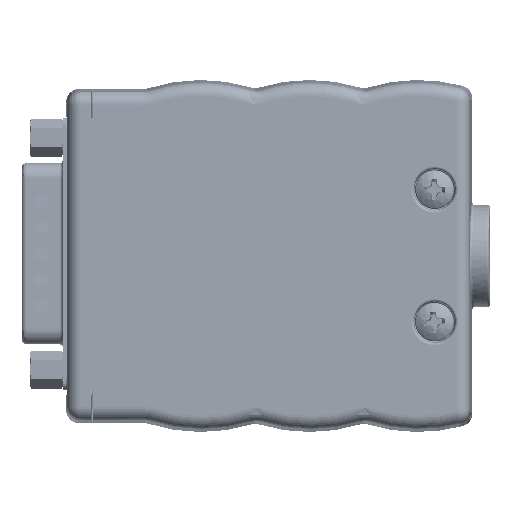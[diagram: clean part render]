
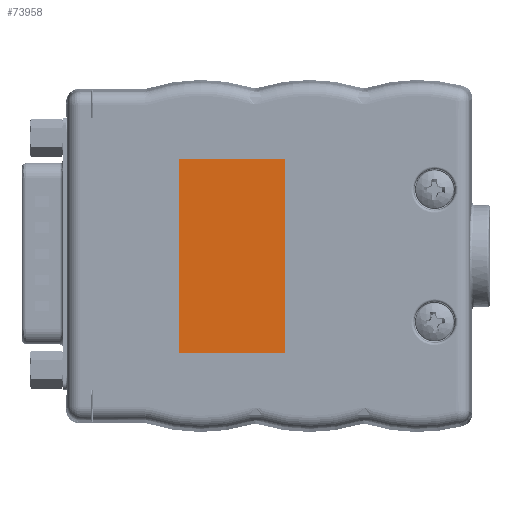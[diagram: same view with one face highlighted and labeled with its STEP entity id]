
A CAD part, top view. The second image highlights one B-rep face of the part: STEP entity #73958.
In plain terms, the highlighted planar face has unit normal (0, 0, 1).
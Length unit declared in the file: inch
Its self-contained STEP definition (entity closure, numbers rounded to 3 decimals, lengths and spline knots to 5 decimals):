
#3266 = EDGE_CURVE ( 'NONE', #110552, #4676, #355680, .T. ) ;
#4676 = VERTEX_POINT ( 'NONE', #185975 ) ;
#19014 = CARTESIAN_POINT ( 'NONE',  ( 23.86426, 5.65173, 0.6661 ) ) ;
#19164 = FACE_OUTER_BOUND ( 'NONE', #419641, .T. ) ;
#32429 = VERTEX_POINT ( 'NONE', #19014 ) ;
#32653 = ORIENTED_EDGE ( 'NONE', *, *, #392821, .T. ) ;
#72960 = LINE ( 'NONE', #335281, #494580 ) ;
#72994 = ORIENTED_EDGE ( 'NONE', *, *, #401751, .T. ) ;
#73958 = ADVANCED_FACE ( 'NONE', ( #19164 ), #321324, .T. ) ;
#78219 = DIRECTION ( 'NONE',  ( 0., 0., 1. ) ) ;
#86983 = DIRECTION ( 'NONE',  ( 0., -1., 0. ) ) ;
#110552 = VERTEX_POINT ( 'NONE', #316390 ) ;
#137083 = LINE ( 'NONE', #224378, #444120 ) ;
#154858 = CARTESIAN_POINT ( 'NONE',  ( 0., 0., 0.6661 ) ) ;
#177552 = ORIENTED_EDGE ( 'NONE', *, *, #3266, .T. ) ;
#179579 = DIRECTION ( 'NONE',  ( -1., 0., 0. ) ) ;
#180875 = ORIENTED_EDGE ( 'NONE', *, *, #502698, .T. ) ;
#185975 = CARTESIAN_POINT ( 'NONE',  ( 24.96374, 5.65173, 0.6661 ) ) ;
#224378 = CARTESIAN_POINT ( 'NONE',  ( 0., 5.65173, 0.6661 ) ) ;
#237599 = CARTESIAN_POINT ( 'NONE',  ( 24.96374, 0., 0.6661 ) ) ;
#286597 = CARTESIAN_POINT ( 'NONE',  ( 23.86426, 5.05225, 0.6661 ) ) ;
#287240 = DIRECTION ( 'NONE',  ( 1., 0., 0. ) ) ;
#316390 = CARTESIAN_POINT ( 'NONE',  ( 24.96374, 5.05225, 0.6661 ) ) ;
#321324 = PLANE ( 'NONE',  #324913 ) ;
#323203 = CARTESIAN_POINT ( 'NONE',  ( 0., 5.05225, 0.6661 ) ) ;
#324913 = AXIS2_PLACEMENT_3D ( 'NONE', #154858, #78219, #440777 ) ;
#333849 = LINE ( 'NONE', #323203, #372310 ) ;
#335281 = CARTESIAN_POINT ( 'NONE',  ( 23.86426, 0., 0.6661 ) ) ;
#355680 = LINE ( 'NONE', #237599, #368402 ) ;
#368402 = VECTOR ( 'NONE', #437719, 39.37008 ) ;
#372310 = VECTOR ( 'NONE', #287240, 39.37008 ) ;
#392821 = EDGE_CURVE ( 'NONE', #4676, #32429, #137083, .T. ) ;
#401751 = EDGE_CURVE ( 'NONE', #32429, #524006, #72960, .T. ) ;
#419641 = EDGE_LOOP ( 'NONE', ( #177552, #32653, #72994, #180875 ) ) ;
#437719 = DIRECTION ( 'NONE',  ( 0., 1., 0. ) ) ;
#440777 = DIRECTION ( 'NONE',  ( 1., 0., 0. ) ) ;
#444120 = VECTOR ( 'NONE', #179579, 39.37008 ) ;
#494580 = VECTOR ( 'NONE', #86983, 39.37008 ) ;
#502698 = EDGE_CURVE ( 'NONE', #524006, #110552, #333849, .T. ) ;
#524006 = VERTEX_POINT ( 'NONE', #286597 ) ;
